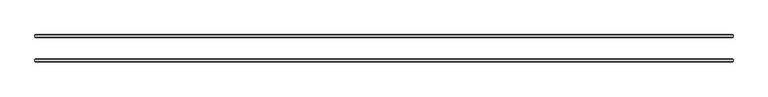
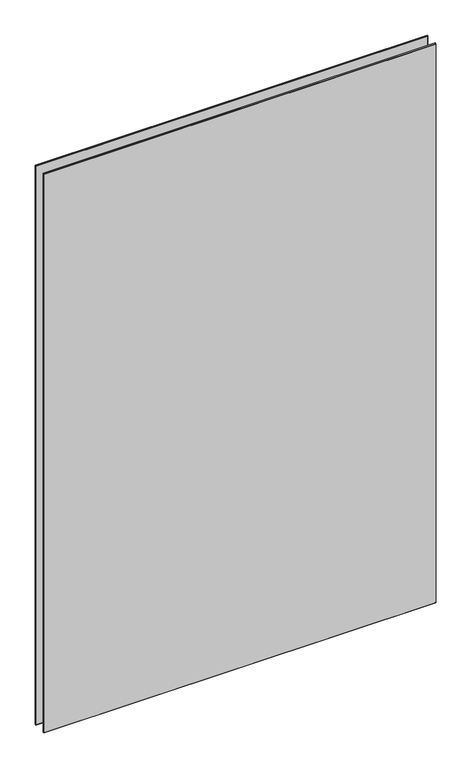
"""IFC4 building model written with IfcOpenShell, lengths in millimetres: plate geometry, 3-AMG-2-Панель двойной витраж 8, 10 : Смещение 32 Толщина 8mm."""

from ifc_helpers import new_model, si_unit, origin, place, context, project, spatial, faceted_brep, source, transform, mapped, element, save


def plate_b37d0d85(model_context):
    return source(origin(), model_context, "Body", "Brep", [
        faceted_brep([(915.9811719, -34.4961653, 2751.0), (915.9811719, -29.5038347, 2751.0), (-915.9811719, -29.5038347, 2751.0), (-915.9811719, -34.4961653, 2751.0), (915.9811719, -29.5038347, -7.0), (915.9811719, -34.4961653, -7.0), (-915.9811719, -34.4961653, -7.0), (-915.9811719, -29.5038347, -7.0), (-914.4773372, -28.0, 2749.4961653), (914.4773372, -28.0, 2749.4961653), (914.4773372, -28.0, -5.5039422), (-914.4773372, -28.0, -5.5039422), (914.4773372, -36.0, 2749.4961653), (-914.4773372, -36.0, 2749.4961653), (-914.4773372, -36.0, -5.4961653), (914.4773372, -36.0, -5.4961653)], [[[0, 1, 2, 3]], [[4, 5, 6, 7]], [[8, 9, 10, 11]], [[3, 2, 7, 6]], [[12, 13, 14, 15]], [[1, 0, 5, 4]], [[1, 4, 10, 9]], [[5, 0, 12, 15]], [[0, 3, 13, 12]], [[2, 1, 9, 8]], [[7, 2, 8, 11]], [[3, 6, 14, 13]], [[6, 5, 15, 14]], [[4, 7, 11, 10]]]),
        faceted_brep([(915.9811719, 29.5038347, 2751.0), (915.9811719, 34.4961653, 2751.0), (-915.9811719, 34.4961653, 2751.0), (-915.9811719, 29.5038347, 2751.0), (915.9811719, 34.4961653, -7.0), (915.9811719, 29.5038347, -7.0), (-915.9811719, 29.5038347, -7.0), (-915.9811719, 34.4961653, -7.0), (-914.4773372, 36.0, 2749.4961653), (914.4773372, 36.0, 2749.4961653), (914.4773372, 36.0, -5.5039422), (-914.4773372, 36.0, -5.5039422), (914.4773372, 28.0, 2749.4961653), (-914.4773372, 28.0, 2749.4961653), (-914.4773372, 28.0, -5.4961653), (914.4773372, 28.0, -5.4961653)], [[[0, 1, 2, 3]], [[4, 5, 6, 7]], [[8, 9, 10, 11]], [[3, 2, 7, 6]], [[12, 13, 14, 15]], [[1, 0, 5, 4]], [[1, 4, 10, 9]], [[5, 0, 12, 15]], [[7, 2, 8, 11]], [[3, 6, 14, 13]], [[0, 3, 13, 12]], [[2, 1, 9, 8]], [[6, 5, 15, 14]], [[4, 7, 11, 10]]]),
    ])


if __name__ == "__main__":
    model = new_model("IFC4")
    model_context = context("Model", 3, world=origin())
    ifc_project = project(units=[si_unit("LENGTHUNIT", "METRE", prefix="MILLI")], contexts=[model_context])
    site = spatial("IfcSite", under=ifc_project)
    building = spatial("IfcBuilding", under=site)
    placement = place(None, origin())
    plate_shape = plate_b37d0d85(model_context)
    element("IfcPlate", 1, ObjectType="3-AMG-2-Панель двойной витраж 8, 10 : Смещение 32 Толщина 8mm", at=placement, inside=building, context=model_context, shape_type="MappedRepresentation", body=[
        mapped(plate_shape, transform((0.0, 0.0, 0.0), x_axis=(1.0, 0.0, 0.0), y_axis=(0.0, 1.0, 0.0), z_axis=(0.0, 0.0, 1.0))),
    ])
    save(model, "model.ifc")
